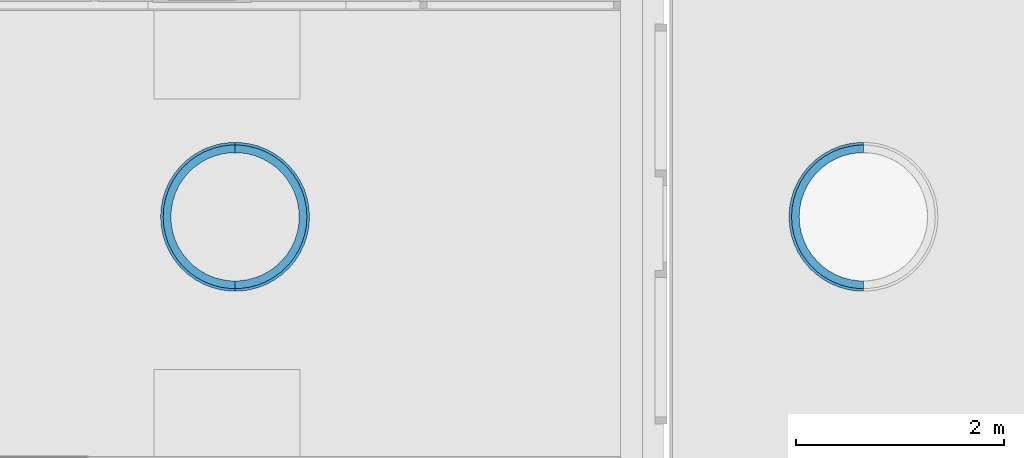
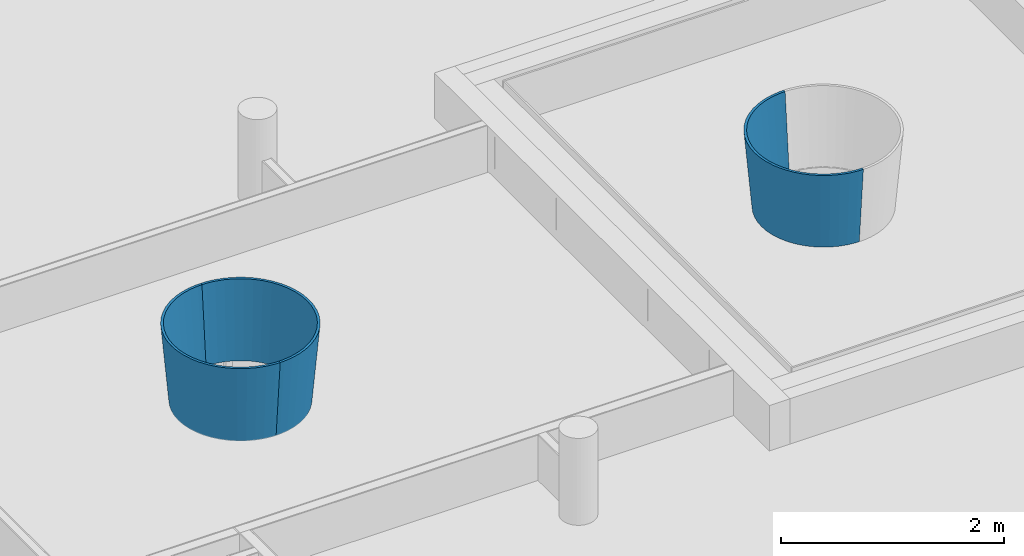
# One storey, part 20 of 167: 3 walls.
"""IFC2X3 building model written with IfcOpenShell, lengths in millimetres."""

from ifc_helpers import new_model, entity, si_unit, converted_unit, derived_unit, money_unit, direction, frame, origin_with_axes, place, context, subcontext, project, spatial, faceted_brep, material, type_object, element, save


model = new_model("IFC2X3")

# Units and contexts
model_context = context("Model", 3, precision=0.01, world=origin_with_axes(), true_north=direction((0.0, 1.0)))
plan_context = context("Plan", 3, precision=0.01, world=origin_with_axes(), true_north=direction((0.0, 1.0)))
body_context = subcontext(model_context, "Body", "Model", "MODEL_VIEW")
ifc_project = project(units=[si_unit("LENGTHUNIT", "METRE", prefix="MILLI"), si_unit("AREAUNIT", "SQUARE_METRE"), si_unit("VOLUMEUNIT", "CUBIC_METRE"), converted_unit("PLANEANGLEUNIT", "DEGREE", entity("IfcPlaneAngleMeasure", 0.0174532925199), si_unit("PLANEANGLEUNIT", "RADIAN"), dimensions=[0, 0, 0, 0, 0, 0, 0]), si_unit("SOLIDANGLEUNIT", "STERADIAN"), money_unit("EUR"), converted_unit("TIMEUNIT", "Year", entity("IfcTimeMeasure", 31556926.0), si_unit("TIMEUNIT", "SECOND"), dimensions=[0, 0, 1, 0, 0, 0, 0]), si_unit("MASSUNIT", "GRAM", prefix="KILO"), si_unit("THERMODYNAMICTEMPERATUREUNIT", "DEGREE_CELSIUS"), si_unit("LUMINOUSINTENSITYUNIT", "LUMEN"), si_unit("ENERGYUNIT", "JOULE", prefix="MEGA"), derived_unit("THERMALCONDUCTANCEUNIT", [(si_unit("POWERUNIT", "WATT"), 1), (si_unit("LENGTHUNIT", "METRE"), -1), (si_unit("THERMODYNAMICTEMPERATUREUNIT", "KELVIN"), -1)]), derived_unit("SPECIFICHEATCAPACITYUNIT", [(si_unit("ENERGYUNIT", "JOULE"), 1), (si_unit("MASSUNIT", "GRAM", prefix="KILO"), -1), (si_unit("THERMODYNAMICTEMPERATUREUNIT", "KELVIN"), -1)]), derived_unit("MASSDENSITYUNIT", [(si_unit("MASSUNIT", "GRAM", prefix="KILO"), 1), (si_unit("VOLUMEUNIT", "CUBIC_METRE"), -1)])], contexts=[model_context, plan_context])

# Site, building, storey
site_placement = place(None, origin_with_axes())
site = spatial("IfcSite", under=ifc_project, at=site_placement, Name="Site", CompositionType="ELEMENT")
building_placement = place(site_placement, origin_with_axes())
building = spatial("IfcBuilding", under=site, at=building_placement, Name="Naam gebouw", CompositionType="ELEMENT")
storey_placement = place(building_placement, origin_with_axes())
storey = spatial("IfcBuildingStorey", under=building, at=storey_placement, Name="Begane grond", CompositionType="ELEMENT", Elevation=0.0)

# Walls
ifc_material = material(Name="Hout - Spaanplaat")
wall_type = type_object("IfcWallType", Name="Hout - Spaanplaat 25", PredefinedType="NOTDEFINED")
wall_1_placement = place(storey_placement, frame((34275.3125892, 39027.9312523, 2800.0), z_axis=(0.0, 0.0, 1.0), x_axis=(1.0, 0.0, 0.0)))
element("IfcWall", 1, at=wall_1_placement, inside=storey, type_object=wall_type, material=ifc_material, Name="21_Wand_Wand-x", context=body_context, shape_type="Brep", body=[
    faceted_brep([(0.0, 0.0, 0.0), (40.2551411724, 0.0, 0.0), (44.9062917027, -73.9279206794, 845.0), (0.0, -73.9279206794, 845.0), (0.0, 25.0954959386, 0.0), (38.6762663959, 25.0954959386, 0.0), (120.130575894, 10.0906140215, 0.0), (134.010676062, -62.6714191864, 845.0), (43.3274169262, -48.8324247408, 845.0), (0.0, -48.8324247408, 845.0), (115.418851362, 34.7903389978, 0.0), (198.111479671, 30.1127070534, 0.0), (221.001632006, -40.3359379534, 845.0), (129.298951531, -37.9716942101, 845.0), (190.341212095, 54.0271316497, 0.0), (272.968047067, 59.7505187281, 0.0), (304.507260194, -7.27372086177, 845.0), (213.231364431, -16.4215133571, 845.0), (262.261778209, 82.5024981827, 0.0), (343.519745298, 98.5366430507, 0.0), (383.210626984, 35.9938211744, 845.0), (293.800991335, 15.4782585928, 845.0), (330.046319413, 119.767365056, 0.0), (408.653931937, 145.859399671, 0.0), (455.870533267, 88.7843331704, 845.0), (369.737201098, 57.2245431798, 845.0), (392.625832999, 165.234043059, 0.0), (467.343401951, 200.972480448, 0.0), (521.341088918, 150.265277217, 845.0), (439.84243433, 108.158976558, 845.0), (449.013402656, 218.185495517, 0.0), (518.662587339, 263.006719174, 0.0), (578.589784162, 219.467062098, 845.0), (503.011089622, 167.478292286, 845.0), (498.319762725, 277.786646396, 0.0), (561.802153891, 330.983798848, 0.0), (626.713772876, 295.298334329, 845.0), (558.246959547, 234.24698932, 845.0), (539.767322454, 343.09754994, 0.0), (596.081764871, 403.831680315, 0.0), (664.954111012, 376.563189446, 845.0), (604.67894144, 307.412085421, 845.0), (572.702429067, 413.088214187, 0.0), (620.960810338, 480.401508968, 0.0), (692.707725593, 461.980032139, 845.0), (641.574775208, 385.819723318, 845.0), (596.605676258, 486.65484455, 0.0), (636.046932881, 559.485732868, 0.0), (709.536925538, 550.201787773, 845.0), (668.352591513, 468.233367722, 845.0), (611.100095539, 562.637251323, 0.0), (641.102215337, 639.837146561, 0.0), (715.176304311, 639.837146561, 845.0), (684.590088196, 553.353306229, 845.0), (615.95710126, 639.837146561, 0.0), (636.046932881, 720.188560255, 0.0), (709.536925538, 729.472505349, 845.0), (690.031190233, 639.837146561, 845.0), (611.100095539, 717.037041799, 0.0), (620.960810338, 799.272784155, 0.0), (692.707725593, 817.694260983, 845.0), (684.590088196, 726.320986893, 845.0), (596.605676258, 793.019448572, 0.0), (596.081764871, 875.842612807, 0.0), (664.954111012, 903.111103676, 845.0), (668.352591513, 811.4409254, 845.0), (572.702429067, 866.586078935, 0.0), (561.802153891, 948.690494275, 0.0), (626.713772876, 984.375958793, 845.0), (641.574775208, 893.854569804, 845.0), (539.767322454, 936.576743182, 0.0), (518.662587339, 1016.66757395, 0.0), (578.589784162, 1060.20723102, 845.0), (604.67894144, 972.262207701, 845.0), (498.319762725, 1001.88764673, 0.0), (467.343401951, 1078.70181267, 0.0), (521.341088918, 1129.40901591, 845.0), (558.246959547, 1045.4273038, 845.0), (449.013402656, 1061.4887976, 0.0), (408.653931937, 1133.81489345, 0.0), (455.870533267, 1190.88995995, 845.0), (503.011089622, 1112.19600084, 845.0), (392.625832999, 1114.44025006, 0.0), (343.519745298, 1181.13765007, 0.0), (383.210626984, 1243.68047195, 845.0), (439.84243433, 1171.51531656, 845.0), (330.046319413, 1159.90692807, 0.0), (272.968047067, 1219.92377439, 0.0), (304.507260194, 1286.94801398, 845.0), (369.737201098, 1222.44974994, 845.0), (262.261778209, 1197.17179494, 0.0), (198.111479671, 1249.56158607, 0.0), (221.001632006, 1320.01023108, 845.0), (293.800991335, 1264.19603453, 845.0), (190.341212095, 1225.64716147, 0.0), (120.130575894, 1269.5836791, 0.0), (134.010676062, 1342.34571231, 845.0), (213.231364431, 1296.09580648, 845.0), (115.418851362, 1244.88395412, 0.0), (40.2551411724, 1279.67429312, 0.0), (44.9062917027, 1353.6022138, 845.0), (129.298951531, 1317.64598733, 845.0), (38.6762663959, 1254.57879718, 0.0), (0.0, 1279.67429312, 0.0), (0.0, 1353.6022138, 845.0), (43.3274169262, 1328.50671786, 845.0), (0.0, 1254.57879718, 0.0), (0.0, 1328.50671786, 845.0)], [[[0, 1, 2, 3]], [[4, 5, 1, 0]], [[1, 6, 7, 2]], [[3, 2, 8, 9]], [[4, 0, 3, 9]], [[9, 8, 5, 4]], [[5, 10, 6, 1]], [[6, 11, 12, 7]], [[2, 7, 13, 8]], [[8, 13, 10, 5]], [[10, 14, 11, 6]], [[11, 15, 16, 12]], [[7, 12, 17, 13]], [[13, 17, 14, 10]], [[14, 18, 15, 11]], [[15, 19, 20, 16]], [[12, 16, 21, 17]], [[17, 21, 18, 14]], [[18, 22, 19, 15]], [[19, 23, 24, 20]], [[16, 20, 25, 21]], [[21, 25, 22, 18]], [[22, 26, 23, 19]], [[23, 27, 28, 24]], [[20, 24, 29, 25]], [[25, 29, 26, 22]], [[26, 30, 27, 23]], [[27, 31, 32, 28]], [[24, 28, 33, 29]], [[29, 33, 30, 26]], [[30, 34, 31, 27]], [[31, 35, 36, 32]], [[28, 32, 37, 33]], [[33, 37, 34, 30]], [[34, 38, 35, 31]], [[35, 39, 40, 36]], [[32, 36, 41, 37]], [[37, 41, 38, 34]], [[38, 42, 39, 35]], [[39, 43, 44, 40]], [[36, 40, 45, 41]], [[41, 45, 42, 38]], [[42, 46, 43, 39]], [[43, 47, 48, 44]], [[40, 44, 49, 45]], [[45, 49, 46, 42]], [[46, 50, 47, 43]], [[47, 51, 52, 48]], [[44, 48, 53, 49]], [[49, 53, 50, 46]], [[50, 54, 51, 47]], [[51, 55, 56, 52]], [[48, 52, 57, 53]], [[53, 57, 54, 50]], [[54, 58, 55, 51]], [[55, 59, 60, 56]], [[52, 56, 61, 57]], [[57, 61, 58, 54]], [[58, 62, 59, 55]], [[59, 63, 64, 60]], [[56, 60, 65, 61]], [[61, 65, 62, 58]], [[62, 66, 63, 59]], [[63, 67, 68, 64]], [[60, 64, 69, 65]], [[65, 69, 66, 62]], [[66, 70, 67, 63]], [[67, 71, 72, 68]], [[64, 68, 73, 69]], [[69, 73, 70, 66]], [[70, 74, 71, 67]], [[71, 75, 76, 72]], [[68, 72, 77, 73]], [[73, 77, 74, 70]], [[74, 78, 75, 71]], [[75, 79, 80, 76]], [[72, 76, 81, 77]], [[77, 81, 78, 74]], [[78, 82, 79, 75]], [[79, 83, 84, 80]], [[76, 80, 85, 81]], [[81, 85, 82, 78]], [[82, 86, 83, 79]], [[83, 87, 88, 84]], [[80, 84, 89, 85]], [[85, 89, 86, 82]], [[86, 90, 87, 83]], [[87, 91, 92, 88]], [[84, 88, 93, 89]], [[89, 93, 90, 86]], [[90, 94, 91, 87]], [[91, 95, 96, 92]], [[88, 92, 97, 93]], [[93, 97, 94, 90]], [[94, 98, 95, 91]], [[95, 99, 100, 96]], [[92, 96, 101, 97]], [[97, 101, 98, 94]], [[98, 102, 99, 95]], [[99, 103, 104, 100]], [[96, 100, 105, 101]], [[101, 105, 102, 98]], [[102, 106, 103, 99]], [[104, 103, 106, 107]], [[100, 104, 107, 105]], [[105, 107, 106, 102]]]),
])
wall_2_placement = place(storey_placement, frame((34275.3125892, 40307.6055455, 2800.0), z_axis=(0.0, 0.0, 1.0), x_axis=(-1.0, 0.0, 0.0)))
element("IfcWall", 2, at=wall_2_placement, inside=storey, type_object=wall_type, material=ifc_material, Name="21_Wand_Wand-x", context=body_context, shape_type="Brep", body=[
    faceted_brep([(0.0, 0.0, 0.0), (40.2551411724, 0.0, 0.0), (44.9062917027, -73.9279206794, 845.0), (0.0, -73.9279206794, 845.0), (0.0, 25.0954959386, 0.0), (38.6762663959, 25.0954959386, 0.0), (120.130575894, 10.0906140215, 0.0), (134.010676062, -62.6714191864, 845.0), (43.3274169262, -48.8324247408, 845.0), (0.0, -48.8324247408, 845.0), (115.418851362, 34.7903389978, 0.0), (198.111479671, 30.1127070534, 0.0), (221.001632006, -40.3359379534, 845.0), (129.298951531, -37.9716942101, 845.0), (190.341212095, 54.0271316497, 0.0), (272.968047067, 59.7505187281, 0.0), (304.507260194, -7.27372086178, 845.0), (213.231364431, -16.4215133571, 845.0), (262.261778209, 82.5024981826, 0.0), (343.519745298, 98.5366430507, 0.0), (383.210626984, 35.9938211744, 845.0), (293.800991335, 15.4782585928, 845.0), (330.046319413, 119.767365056, 0.0), (408.653931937, 145.859399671, 0.0), (455.870533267, 88.7843331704, 845.0), (369.737201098, 57.2245431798, 845.0), (392.625832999, 165.234043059, 0.0), (467.343401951, 200.972480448, 0.0), (521.341088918, 150.265277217, 845.0), (439.84243433, 108.158976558, 845.0), (449.013402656, 218.185495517, 0.0), (518.662587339, 263.006719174, 0.0), (578.589784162, 219.467062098, 845.0), (503.011089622, 167.478292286, 845.0), (498.319762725, 277.786646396, 0.0), (561.802153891, 330.983798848, 0.0), (626.713772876, 295.298334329, 845.0), (558.246959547, 234.24698932, 845.0), (539.767322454, 343.09754994, 0.0), (596.081764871, 403.831680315, 0.0), (664.954111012, 376.563189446, 845.0), (604.67894144, 307.412085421, 845.0), (572.702429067, 413.088214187, 0.0), (620.960810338, 480.401508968, 0.0), (692.707725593, 461.980032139, 845.0), (641.574775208, 385.819723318, 845.0), (596.605676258, 486.65484455, 0.0), (636.046932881, 559.485732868, 0.0), (709.536925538, 550.201787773, 845.0), (668.352591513, 468.233367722, 845.0), (611.100095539, 562.637251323, 0.0), (641.102215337, 639.837146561, 0.0), (715.176304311, 639.837146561, 845.0), (684.590088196, 553.353306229, 845.0), (615.95710126, 639.837146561, 0.0), (636.046932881, 720.188560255, 0.0), (709.536925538, 729.472505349, 845.0), (690.031190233, 639.837146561, 845.0), (611.100095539, 717.037041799, 0.0), (620.960810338, 799.272784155, 0.0), (692.707725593, 817.694260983, 845.0), (684.590088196, 726.320986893, 845.0), (596.605676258, 793.019448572, 0.0), (596.081764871, 875.842612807, 0.0), (664.954111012, 903.111103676, 845.0), (668.352591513, 811.4409254, 845.0), (572.702429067, 866.586078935, 0.0), (561.802153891, 948.690494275, 0.0), (626.713772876, 984.375958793, 845.0), (641.574775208, 893.854569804, 845.0), (539.767322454, 936.576743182, 0.0), (518.662587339, 1016.66757395, 0.0), (578.589784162, 1060.20723102, 845.0), (604.67894144, 972.262207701, 845.0), (498.319762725, 1001.88764673, 0.0), (467.343401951, 1078.70181267, 0.0), (521.341088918, 1129.40901591, 845.0), (558.246959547, 1045.4273038, 845.0), (449.013402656, 1061.4887976, 0.0), (408.653931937, 1133.81489345, 0.0), (455.870533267, 1190.88995995, 845.0), (503.011089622, 1112.19600084, 845.0), (392.625832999, 1114.44025006, 0.0), (343.519745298, 1181.13765007, 0.0), (383.210626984, 1243.68047195, 845.0), (439.84243433, 1171.51531656, 845.0), (330.046319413, 1159.90692807, 0.0), (272.968047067, 1219.92377439, 0.0), (304.507260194, 1286.94801398, 845.0), (369.737201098, 1222.44974994, 845.0), (262.261778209, 1197.17179494, 0.0), (198.111479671, 1249.56158607, 0.0), (221.001632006, 1320.01023108, 845.0), (293.800991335, 1264.19603453, 845.0), (190.341212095, 1225.64716147, 0.0), (120.130575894, 1269.5836791, 0.0), (134.010676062, 1342.34571231, 845.0), (213.231364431, 1296.09580648, 845.0), (115.418851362, 1244.88395412, 0.0), (40.2551411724, 1279.67429312, 0.0), (44.9062917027, 1353.6022138, 845.0), (129.298951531, 1317.64598733, 845.0), (38.6762663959, 1254.57879718, 0.0), (0.0, 1279.67429312, 0.0), (0.0, 1353.6022138, 845.0), (43.3274169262, 1328.50671786, 845.0), (0.0, 1254.57879718, 0.0), (0.0, 1328.50671786, 845.0)], [[[0, 1, 2, 3]], [[4, 5, 1, 0]], [[1, 6, 7, 2]], [[3, 2, 8, 9]], [[4, 0, 3, 9]], [[9, 8, 5, 4]], [[5, 10, 6, 1]], [[6, 11, 12, 7]], [[2, 7, 13, 8]], [[8, 13, 10, 5]], [[10, 14, 11, 6]], [[11, 15, 16, 12]], [[7, 12, 17, 13]], [[13, 17, 14, 10]], [[14, 18, 15, 11]], [[15, 19, 20, 16]], [[12, 16, 21, 17]], [[17, 21, 18, 14]], [[18, 22, 19, 15]], [[19, 23, 24, 20]], [[16, 20, 25, 21]], [[21, 25, 22, 18]], [[22, 26, 23, 19]], [[23, 27, 28, 24]], [[20, 24, 29, 25]], [[25, 29, 26, 22]], [[26, 30, 27, 23]], [[27, 31, 32, 28]], [[24, 28, 33, 29]], [[29, 33, 30, 26]], [[30, 34, 31, 27]], [[31, 35, 36, 32]], [[28, 32, 37, 33]], [[33, 37, 34, 30]], [[34, 38, 35, 31]], [[35, 39, 40, 36]], [[32, 36, 41, 37]], [[37, 41, 38, 34]], [[38, 42, 39, 35]], [[39, 43, 44, 40]], [[36, 40, 45, 41]], [[41, 45, 42, 38]], [[42, 46, 43, 39]], [[43, 47, 48, 44]], [[40, 44, 49, 45]], [[45, 49, 46, 42]], [[46, 50, 47, 43]], [[47, 51, 52, 48]], [[44, 48, 53, 49]], [[49, 53, 50, 46]], [[50, 54, 51, 47]], [[51, 55, 56, 52]], [[48, 52, 57, 53]], [[53, 57, 54, 50]], [[54, 58, 55, 51]], [[55, 59, 60, 56]], [[52, 56, 61, 57]], [[57, 61, 58, 54]], [[58, 62, 59, 55]], [[59, 63, 64, 60]], [[56, 60, 65, 61]], [[61, 65, 62, 58]], [[62, 66, 63, 59]], [[63, 67, 68, 64]], [[60, 64, 69, 65]], [[65, 69, 66, 62]], [[66, 70, 67, 63]], [[67, 71, 72, 68]], [[64, 68, 73, 69]], [[69, 73, 70, 66]], [[70, 74, 71, 67]], [[71, 75, 76, 72]], [[68, 72, 77, 73]], [[73, 77, 74, 70]], [[74, 78, 75, 71]], [[75, 79, 80, 76]], [[72, 76, 81, 77]], [[77, 81, 78, 74]], [[78, 82, 79, 75]], [[79, 83, 84, 80]], [[76, 80, 85, 81]], [[81, 85, 82, 78]], [[82, 86, 83, 79]], [[83, 87, 88, 84]], [[80, 84, 89, 85]], [[85, 89, 86, 82]], [[86, 90, 87, 83]], [[87, 91, 92, 88]], [[84, 88, 93, 89]], [[89, 93, 90, 86]], [[90, 94, 91, 87]], [[91, 95, 96, 92]], [[88, 92, 97, 93]], [[93, 97, 94, 90]], [[94, 98, 95, 91]], [[95, 99, 100, 96]], [[92, 96, 101, 97]], [[97, 101, 98, 94]], [[98, 102, 99, 95]], [[99, 103, 104, 100]], [[96, 100, 105, 101]], [[101, 105, 102, 98]], [[102, 106, 103, 99]], [[104, 103, 106, 107]], [[100, 104, 107, 105]], [[105, 107, 106, 102]]]),
])
wall_3_placement = place(storey_placement, frame((40308.2112045, 40307.6055455, 2800.0), z_axis=(0.0, 0.0, 1.0), x_axis=(-1.0, 0.0, 0.0)))
element("IfcWall", 3, at=wall_3_placement, inside=storey, type_object=wall_type, material=ifc_material, Name="21_Wand_Wand-x", context=body_context, shape_type="Brep", body=[
    faceted_brep([(598.087483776, 494.422752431, 0.0), (605.477777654, 533.164029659, 0.0), (600.56271448, 502.762626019, 0.0), (600.56271448, 502.762626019, 9.92872903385)], [[[0, 1, 2]], [[0, 3, 1]], [[2, 1, 3]], [[2, 3, 0]]]),
    faceted_brep([(574.901913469, 419.85753163, 0.0), (587.090084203, 457.368864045, 0.0), (578.103402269, 427.089750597, 0.0), (578.103402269, 427.089750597, 9.25740915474)], [[[0, 1, 2]], [[0, 3, 1]], [[2, 1, 3]], [[2, 3, 0]]]),
    faceted_brep([(542.461346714, 348.822643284, 0.0), (559.255683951, 384.512426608, 0.0), (546.151648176, 354.910181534, 0.0), (546.151648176, 354.910181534, 8.53981495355)], [[[0, 1, 2]], [[0, 3, 1]], [[2, 1, 3]], [[2, 3, 0]]]),
    faceted_brep([(501.28651229, 282.461495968, 0.0), (522.422685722, 315.766776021, 0.0), (505.232099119, 287.409105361, 0.0), (505.232099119, 287.409105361, 7.77595115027)], [[[0, 1, 2]], [[0, 3, 1]], [[2, 1, 3]], [[2, 3, 0]]]),
    faceted_brep([(452.038713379, 221.842468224, 0.0), (477.183929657, 252.23781331, 0.0), (456.016652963, 225.69488788, 0.0), (456.016652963, 225.69488788, 6.96582276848)], [[[0, 1, 2]], [[0, 3, 1]], [[2, 1, 3]], [[2, 3, 0]]]),
    faceted_brep([(395.509210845, 167.9417153, 0.0), (424.267449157, 194.947498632, 0.0), (399.313425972, 170.780874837, 0.0), (399.313425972, 170.780874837, 6.10943513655)], [[[0, 1, 2]], [[0, 3, 1]], [[2, 1, 3]], [[2, 3, 0]]]),
    faceted_brep([(332.606515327, 121.627456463, 0.0), (364.524759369, 144.817418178, 0.0), (336.053483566, 123.568752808, 0.0), (336.053483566, 123.568752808, 5.20679388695)], [[[0, 1, 2]], [[0, 3, 1]], [[2, 1, 3]], [[2, 3, 0]]]),
    faceted_brep([(264.341792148, 83.6459957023, 0.0), (298.917160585, 102.653965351, 0.0), (267.275552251, 84.8337435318, 0.0), (267.275552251, 84.8337435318, 4.2579049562)], [[[0, 1, 2]], [[0, 3, 1]], [[2, 1, 3]], [[2, 3, 0]]]),
    faceted_brep([(191.812613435, 54.6097008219, 0.0), (228.50027695, 69.1353743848, 0.0), (194.108963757, 55.2118747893, 0.0), (194.108963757, 55.2118747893, 3.26277458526)], [[[0, 1, 2]], [[0, 3, 1]], [[2, 1, 3]], [[2, 3, 0]]]),
    faceted_brep([(116.185318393, 34.9871344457, 0.0), (154.407079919, 44.8008148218, 0.0), (117.755111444, 35.1895368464, 0.0), (117.755111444, 35.1895368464, 2.22140931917)], [[[0, 1, 2]], [[0, 3, 1]], [[2, 1, 3]], [[2, 3, 0]]]),
    faceted_brep([(38.676266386, 25.0954960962, 0.0), (77.829677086, 30.041722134, 0.0), (39.4677234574, 25.0954959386, 0.0), (39.4677234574, 25.0954959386, 1.13381600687)], [[[0, 1, 2]], [[0, 3, 1]], [[2, 1, 3]], [[2, 3, 0]]]),
    faceted_brep([(0.0, -48.8324247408, 845.0), (0.0, 24.22060961, 9.9999999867), (0.0, -0.874886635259, 10.0), (0.0, -73.9279206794, 845.0), (43.3274169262, -48.8324247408, 845.0), (38.7313095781, 24.22060961, 9.9999999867), (120.294837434, 9.22952487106, 10.0), (40.310184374, -0.874886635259, 10.0), (115.583112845, 33.9292501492, 9.9999999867), (190.612101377, 53.1934201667, 9.9999999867), (262.635023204, 81.7093121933, 9.9999999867), (330.516033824, 119.027213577, 9.9999999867), (393.18460915, 164.558598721, 9.9999999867), (449.652428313, 217.585410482, 9.9999999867), (499.028960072, 277.271384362, 9.9999999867), (540.535507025, 342.675236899, 9.9999999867), (573.517486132, 412.765510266, 9.9999999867), (597.454751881, 486.436838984, 9.9999999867), (611.969799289, 562.527382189, 9.9999999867), (613.081333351, 580.194710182, 9.9999999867), (613.160803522, 580.686261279, 10.0), (613.211270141, 582.259996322, 9.9999999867), (616.83371739, 639.837146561, 9.9999999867), (615.65729046, 658.535917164, 9.9999999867), (615.690809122, 659.58115244, 10.0), (615.405379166, 662.53993252, 9.9999999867), (611.969799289, 717.146910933, 9.9999999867), (608.262908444, 736.57911326, 9.9999999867), (608.111188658, 738.151847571, 10.0), (607.208187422, 742.108154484, 9.9999999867), (597.454751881, 793.237454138, 9.9999999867), (591.013597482, 813.061288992, 9.9999999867), (590.546399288, 815.108218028, 10.0), (588.856311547, 819.700732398, 9.9999999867), (573.517486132, 866.908782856, 9.9999999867), (564.183869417, 886.743728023, 9.9999999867), (563.284854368, 889.186642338, 10.0), (560.728820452, 894.086080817, 9.9999999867), (540.535507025, 936.999056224, 9.9999999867), (528.203033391, 956.431925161, 9.9999999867), (526.774187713, 959.170754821, 10.0), (523.346460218, 964.084659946, 9.9999999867), (499.028960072, 1002.40290876, 9.9999999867), (483.648410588, 1020.99479932, 9.9999999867), (481.613903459, 1023.91141829, 10.0), (477.366901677, 1028.58783924, 9.9999999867), (449.652428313, 1062.08888264, 9.9999999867), (431.236177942, 1079.38289286, 9.9999999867), (428.545532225, 1082.34559283, 10.0), (423.576700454, 1086.57562098, 9.9999999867), (393.18460915, 1115.1156944, 9.9999999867), (371.80998903, 1130.64526494, 9.9999999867), (368.440455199, 1133.51379091, 10.0), (362.88047077, 1137.13293971, 9.9999999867), (330.516033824, 1160.64707954, 9.9999999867), (306.327556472, 1173.9448075, 9.9999999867), (302.285596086, 1176.57583215, 10.0), (296.287679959, 1179.46427632, 9.9999999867), (262.635023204, 1197.96498093, 9.9999999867), (235.845413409, 1208.57173779, 9.9999999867), (231.167215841, 1210.824639, 10.0), (224.89742588, 1212.90635269, 9.9999999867), (190.612101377, 1226.48087296, 9.9999999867), (161.50210157, 1233.95505056, 9.9999999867), (156.253076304, 1235.69784702, 10.0), (149.881540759, 1236.93870346, 9.9999999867), (115.583112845, 1245.74504297, 9.9999999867), (84.5000595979, 1249.67174577, 9.9999999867), (78.7732655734, 1250.78703881, 10.0), (73.7622765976, 1251.02824322, 9.9999999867), (38.7313095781, 1255.45368351, 9.9999999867), (0.0, 1255.45368351, 9.9999999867), (0.0, 1280.54917976, 10.0), (40.310184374, 1280.54917976, 10.0), (120.294837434, 1270.44476825, 10.0), (198.382369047, 1250.39529784, 10.0), (273.341292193, 1220.71696066, 10.0), (343.989459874, 1181.87780181, 10.0), (409.212708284, 1134.49033803, 10.0), (467.982427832, 1079.30189792, 10.0), (519.371784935, 1017.18283616, 10.0), (562.570338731, 949.112807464, 10.0), (596.896822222, 876.165316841, 10.0), (621.809886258, 799.490789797, 10.0), (636.916636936, 720.298429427, 10.0), (641.978831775, 639.837146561, 10.0), (636.916636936, 559.375863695, 10.0), (621.809886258, 480.183503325, 10.0), (596.896822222, 403.508976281, 10.0), (562.570338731, 330.561485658, 10.0), (519.371784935, 262.49145696, 10.0), (467.982427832, 200.372395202, 10.0), (409.212708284, 145.183955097, 10.0), (343.989459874, 97.7964913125, 10.0), (273.341292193, 58.9573324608, 10.0), (198.382369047, 29.2789952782, 10.0), (44.9062917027, -73.9279206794, 845.0), (129.298951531, -37.9716942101, 845.0), (134.010676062, -62.6714191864, 845.0), (213.231364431, -16.4215133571, 845.0), (293.800991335, 15.4782585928, 845.0), (369.737201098, 57.2245431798, 845.0), (439.84243433, 108.158976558, 845.0), (503.011089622, 167.478292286, 845.0), (558.246959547, 234.24698932, 845.0), (604.67894144, 307.412085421, 845.0), (641.574775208, 385.819723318, 845.0), (668.352591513, 468.233367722, 845.0), (684.590088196, 553.353306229, 845.0), (611.646258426, 571.318264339, 0.0), (690.031190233, 639.837146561, 845.0), (614.122597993, 610.67855463, 0.0), (613.160803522, 580.686261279, 0.0), (615.361327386, 649.306698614, 0.0), (684.590088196, 726.320986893, 845.0), (612.885089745, 688.665368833, 0.0), (615.690809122, 659.58115244, 0.0), (609.17413834, 727.133262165, 0.0), (668.352591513, 811.4409254, 845.0), (601.784756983, 765.86975579, 0.0), (608.111188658, 738.151847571, 0.0), (593.185418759, 803.545918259, 0.0), (641.574775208, 893.854569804, 845.0), (580.999756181, 841.049531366, 0.0), (590.546399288, 815.108218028, 0.0), (567.653536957, 877.315520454, 0.0), (604.67894144, 972.262207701, 845.0), (550.864038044, 912.995021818, 0.0), (563.284854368, 889.186642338, 0.0), (532.990328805, 947.255576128, 0.0), (558.246959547, 1045.4273038, 845.0), (511.861984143, 980.548520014, 0.0), (526.774187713, 959.170754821, 0.0), (489.754457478, 1012.24132194, 0.0), (503.011089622, 1112.19600084, 845.0), (464.620624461, 1042.62290703, 0.0), (481.613903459, 1023.91141829, 0.0), (438.642413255, 1071.22780468, 0.0), (439.84243433, 1171.51531656, 845.0), (409.899560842, 1098.21913969, 0.0), (428.545532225, 1082.34559283, 0.0), (380.477298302, 1123.26667698, 0.0), (369.737201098, 1222.44974994, 845.0), (348.578758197, 1146.44232295, 0.0), (368.440455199, 1133.51379091, 0.0), (316.195576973, 1167.52143798, 0.0), (293.800991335, 1264.19603453, 845.0), (281.644399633, 1186.51610846, 0.0), (302.285596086, 1176.57583215, 0.0), (246.832004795, 1203.28087423, 0.0), (213.231364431, 1296.09580648, 845.0), (210.173032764, 1217.79518803, 0.0), (231.167215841, 1210.824639, 0.0), (173.502978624, 1229.97048485, 0.0), (129.298951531, 1317.64598733, 845.0), (135.314261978, 1239.77568074, 0.0), (156.253076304, 1235.69784702, 0.0), (97.3885757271, 1247.16170748, 0.0), (43.3274169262, 1328.50671786, 845.0), (62.484725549, 1251.57108918, 0.0), (78.7732655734, 1250.78703881, 0.0), (0.0, 1328.50671786, 845.0), (0.0, 1353.6022138, 845.0), (44.9062917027, 1353.6022138, 845.0), (134.010676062, 1342.34571231, 845.0), (221.001632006, 1320.01023108, 845.0), (304.507260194, 1286.94801398, 845.0), (383.210626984, 1243.68047195, 845.0), (455.870533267, 1190.88995995, 845.0), (521.341088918, 1129.40901591, 845.0), (578.589784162, 1060.20723102, 845.0), (626.713772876, 984.375958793, 845.0), (664.954111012, 903.111103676, 845.0), (692.707725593, 817.694260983, 845.0), (709.536925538, 729.472505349, 845.0), (715.176304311, 639.837146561, 845.0), (709.536925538, 550.201787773, 845.0), (692.707725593, 461.980032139, 845.0), (664.954111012, 376.563189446, 845.0), (626.713772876, 295.298334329, 845.0), (578.589784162, 219.467062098, 845.0), (521.341088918, 150.265277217, 845.0), (455.870533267, 88.7843331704, 845.0), (383.210626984, 35.9938211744, 845.0), (304.507260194, -7.27372086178, 845.0), (221.001632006, -40.3359379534, 845.0)], [[[0, 1, 2, 3]], [[4, 5, 1, 0]], [[6, 7, 2, 1, 5, 8, 9, 10, 11, 12, 13, 14, 15, 16, 17, 18, 19, 20, 21, 22, 23, 24, 25, 26, 27, 28, 29, 30, 31, 32, 33, 34, 35, 36, 37, 38, 39, 40, 41, 42, 43, 44, 45, 46, 47, 48, 49, 50, 51, 52, 53, 54, 55, 56, 57, 58, 59, 60, 61, 62, 63, 64, 65, 66, 67, 68, 69, 70, 71, 72, 73, 74, 75, 76, 77, 78, 79, 80, 81, 82, 83, 84, 85, 86, 87, 88, 89, 90, 91, 92, 93, 94, 95]], [[3, 2, 7, 96]], [[0, 3, 96, 4]], [[97, 8, 5, 4]], [[96, 7, 6, 98]], [[99, 9, 8, 97]], [[100, 10, 9, 99]], [[101, 11, 10, 100]], [[102, 12, 11, 101]], [[103, 13, 12, 102]], [[104, 14, 13, 103]], [[105, 15, 14, 104]], [[106, 16, 15, 105]], [[107, 17, 16, 106]], [[108, 18, 17, 107]], [[109, 19, 18, 108, 110, 22, 21, 111]], [[20, 19, 109, 112]], [[20, 112, 111, 21]], [[113, 23, 22, 110, 114, 26, 25, 115]], [[24, 23, 113, 116]], [[24, 116, 115, 25]], [[117, 27, 26, 114, 118, 30, 29, 119]], [[27, 117, 120, 28]], [[28, 120, 119, 29]], [[121, 31, 30, 118, 122, 34, 33, 123]], [[31, 121, 124, 32]], [[32, 124, 123, 33]], [[125, 35, 34, 122, 126, 38, 37, 127]], [[35, 125, 128, 36]], [[36, 128, 127, 37]], [[129, 39, 38, 126, 130, 42, 41, 131]], [[39, 129, 132, 40]], [[40, 132, 131, 41]], [[133, 43, 42, 130, 134, 46, 45, 135]], [[43, 133, 136, 44]], [[44, 136, 135, 45]], [[137, 47, 46, 134, 138, 50, 49, 139]], [[47, 137, 140, 48]], [[48, 140, 139, 49]], [[141, 51, 50, 138, 142, 54, 53, 143]], [[51, 141, 144, 52]], [[52, 144, 143, 53]], [[145, 55, 54, 142, 146, 58, 57, 147]], [[55, 145, 148, 56]], [[56, 148, 147, 57]], [[149, 59, 58, 146, 150, 62, 61, 151]], [[59, 149, 152, 60]], [[60, 152, 151, 61]], [[153, 63, 62, 150, 154, 66, 65, 155]], [[63, 153, 156, 64]], [[64, 156, 155, 65]], [[157, 67, 66, 154, 158, 70, 69, 159]], [[67, 157, 160, 68]], [[68, 160, 159, 69]], [[161, 71, 70, 158]], [[162, 72, 71, 161]], [[163, 73, 72, 162]], [[164, 74, 73, 163]], [[165, 75, 74, 164]], [[166, 76, 75, 165]], [[167, 77, 76, 166]], [[168, 78, 77, 167]], [[169, 79, 78, 168]], [[170, 80, 79, 169]], [[171, 81, 80, 170]], [[172, 82, 81, 171]], [[173, 83, 82, 172]], [[174, 84, 83, 173]], [[175, 85, 84, 174]], [[176, 86, 85, 175]], [[177, 87, 86, 176]], [[178, 88, 87, 177]], [[179, 89, 88, 178]], [[180, 90, 89, 179]], [[181, 91, 90, 180]], [[182, 92, 91, 181]], [[183, 93, 92, 182]], [[184, 94, 93, 183]], [[185, 95, 94, 184]], [[98, 6, 95, 185]], [[4, 96, 98, 97]], [[97, 98, 185, 99]], [[99, 185, 184, 100]], [[100, 184, 183, 101]], [[101, 183, 182, 102]], [[102, 182, 181, 103]], [[103, 181, 180, 104]], [[104, 180, 179, 105]], [[105, 179, 178, 106]], [[106, 178, 177, 107]], [[107, 177, 176, 108]], [[108, 176, 175, 110]], [[111, 112, 109]], [[110, 175, 174, 114]], [[115, 116, 113]], [[114, 174, 173, 118]], [[119, 120, 117]], [[118, 173, 172, 122]], [[123, 124, 121]], [[122, 172, 171, 126]], [[127, 128, 125]], [[126, 171, 170, 130]], [[131, 132, 129]], [[130, 170, 169, 134]], [[135, 136, 133]], [[134, 169, 168, 138]], [[139, 140, 137]], [[138, 168, 167, 142]], [[143, 144, 141]], [[142, 167, 166, 146]], [[147, 148, 145]], [[146, 166, 165, 150]], [[151, 152, 149]], [[150, 165, 164, 154]], [[155, 156, 153]], [[154, 164, 163, 158]], [[159, 160, 157]], [[158, 163, 162, 161]]]),
])

save(model, "model.ifc")
